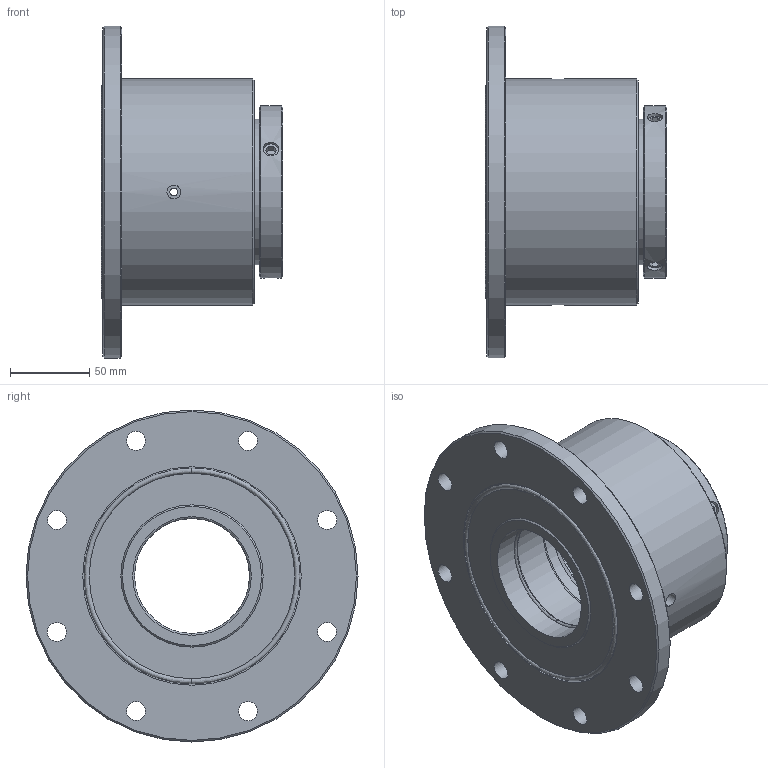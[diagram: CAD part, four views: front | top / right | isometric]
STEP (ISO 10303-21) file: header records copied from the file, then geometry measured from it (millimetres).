
FILE_DESCRIPTION((''),'2;1');
FILE_NAME('F:\BBT01040.STP','2017-07-16T00:59:59',(''),(''),'STEP Write','Mastercam X4 ... CNC Software, Inc.','');
FILE_SCHEMA(('AUTOMOTIVE_DESIGN'));
Length unit declared in the file: millimetre
Products named in the file (1): None
Bounding box: 115 x 210 x 210 mm (x, y, z)
Volume: 1398355.6 mm3; surface area: 167344.2 mm2
Topology: 1 solids, 13 shells, 118 faces, 627 edges, 804 vertices
Faces by surface type: plane 60, cylinder 38, bspline 12, cone 8
Full cylindrical faces by diameter (mm): 5 x2, 8.7 x2, 9.6 x3, 10 x3, 12 x8, 75 x4, 77 x1, 78 x2, 80.2 x1, 92 x1, 109 x1, 130 x1, 138.2 x1, 143 x1, 210 x1
Entity records: 7449 total; most frequent: CARTESIAN_POINT 2893, DIRECTION 1013, STYLED_ITEM 493, ORIENTED_EDGE 456, AXIS2_PLACEMENT_3D 377, CIRCLE 271, VECTOR 259, LINE 259
